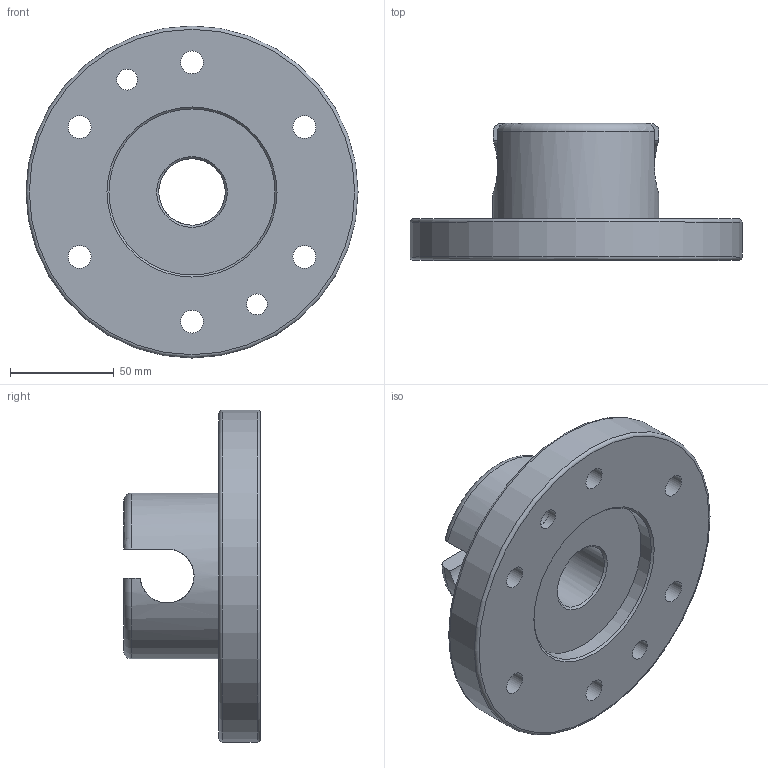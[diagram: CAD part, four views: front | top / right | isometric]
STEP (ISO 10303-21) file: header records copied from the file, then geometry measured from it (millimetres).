
FILE_DESCRIPTION((''),'2;1');
FILE_NAME('T:\CAD\Standard\Daten\3D-Datenbank\SWS\4 - 3D-CAD-Daten SWS 050-160\SWS160\step-Daten\G-SWS160-2U.stp','2013-05-15T15:11:23',('Yvonne'),(''),'Autodesk Inventor 2011','Autodesk Inventor 2011','');
FILE_SCHEMA(('AUTOMOTIVE_DESIGN { 1 0 10303 214 1 1 1 1 }'));
Length unit declared in the file: millimetre
Products named in the file (1): G-SWS160-4
Bounding box: 160 x 66 x 160 mm (x, y, z)
Volume: 485295.6 mm3; surface area: 73282.3 mm2
Topology: 1 solids, 1 shells, 46 faces, 107 edges, 70 vertices
Faces by surface type: cylinder 21, plane 15, cone 6, torus 4
Full cylindrical faces by diameter (mm): 10 x2, 11 x6, 12.1 x1, 18 x6, 32 x1, 80 x2, 160 x1
Entity records: 1396 total; most frequent: CARTESIAN_POINT 393, DIRECTION 208, ORIENTED_EDGE 154, AXIS2_PLACEMENT_3D 96, EDGE_LOOP 96, EDGE_CURVE 77, VERTEX_POINT 65, FACE_BOUND 50
